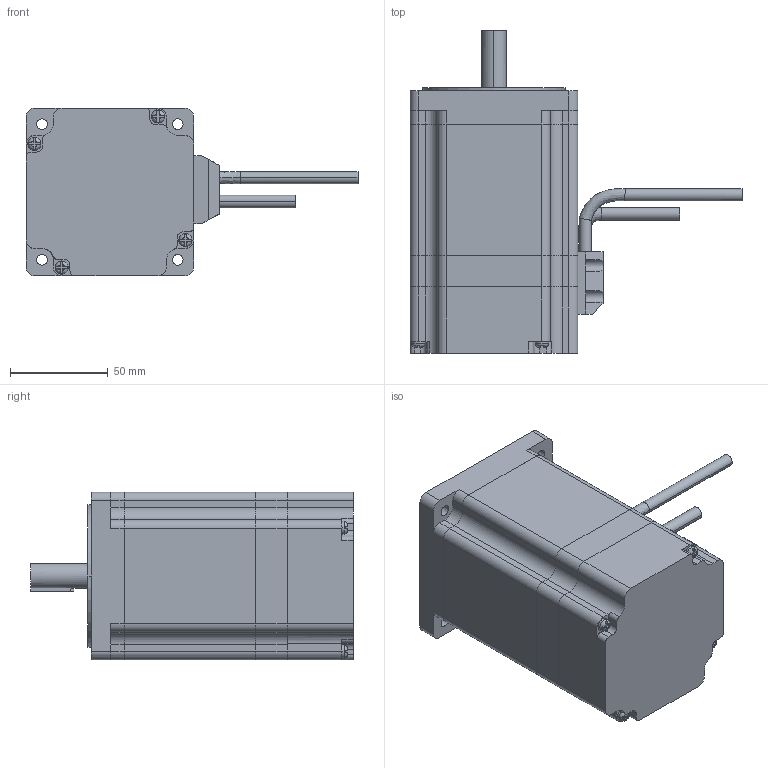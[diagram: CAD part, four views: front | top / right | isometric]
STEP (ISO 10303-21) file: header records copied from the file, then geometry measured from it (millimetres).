
FILE_DESCRIPTION((''),'2;1');
FILE_NAME('MT34HE38100E4K2_ASM','2025-04-01T09:15:13',('CAROL ZHENG'),(''),'CREO PARAMETRIC BY PTC INC, 2020414','CREO PARAMETRIC BY PTC INC, 2020414','');
FILE_SCHEMA(('CONFIG_CONTROL_DESIGN'));
Length unit declared in the file: millimetre
Products named in the file (12): RC_1_1; RE_1_1; ST_1_1; FE_1_1; SF_1_1; LCCP_1_1; SCCP_1_1; LLCP_1_1; LLCP2_1_1; MT34HE38100E4K1_ASM_1_ASM_1_ASM; MT34HE38100E4K2_ASM_1_ASM; MT34HE38100E4K2_ASM
Assembly tree (14 placements, depth 4):
  MT34HE38100E4K2_ASM
    MT34HE38100E4K2_ASM_1_ASM
      MT34HE38100E4K1_ASM_1_ASM_1_ASM
        RC_1_1
        RE_1_1
        ST_1_1
        FE_1_1
        SF_1_1
        LCCP_1_1
        SCCP_1_1  x4
        LLCP_1_1
        LLCP2_1_1
Bounding box: 170.25 x 165.5 x 86 mm (x, y, z)
Volume: 551367.6 mm3; surface area: 148318.3 mm2
Topology: 12 solids, 12 shells, 374 faces, 994 edges, 661 vertices
Faces by surface type: plane 191, cylinder 167, bspline 12, cone 4
Entity records: 11558 total; most frequent: CARTESIAN_POINT 3113, DIRECTION 1814, ORIENTED_EDGE 1676, EDGE_CURVE 838, AXIS2_PLACEMENT_3D 676, VERTEX_POINT 559, VECTOR 462, LINE 462
